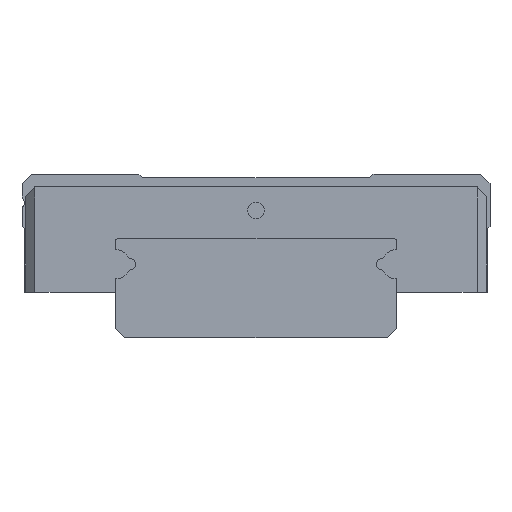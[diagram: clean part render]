
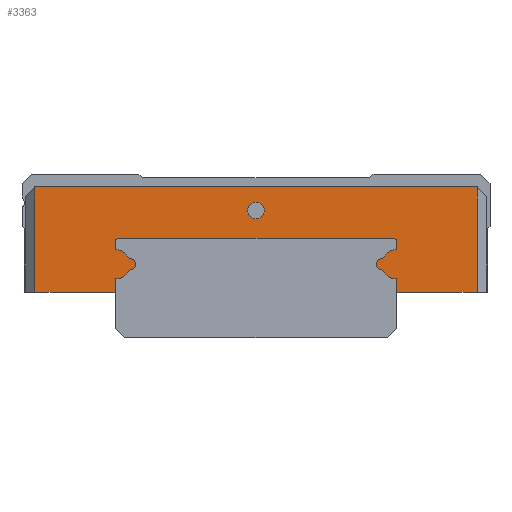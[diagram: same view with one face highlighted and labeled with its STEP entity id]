
A CAD part, left-side view. The second image highlights one B-rep face of the part: STEP entity #3363.
In plain terms, the highlighted planar face has unit normal (-1, 0, 0).
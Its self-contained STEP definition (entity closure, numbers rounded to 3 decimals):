
#1601=CARTESIAN_POINT('',(0.0,-18.9,3.9));
#1602=VERTEX_POINT('',#1601);
#1609=CARTESIAN_POINT('',(0.0,-12.,3.9));
#1610=VERTEX_POINT('',#1609);
#1611=CARTESIAN_POINT('',(0.0,-12.,3.9));
#1612=DIRECTION('',(0.0,-1.0,0.0));
#1613=VECTOR('',#1612,6.9);
#1614=LINE('',#1611,#1613);
#1615=EDGE_CURVE('',#1610,#1602,#1614,.T.);
#1827=CARTESIAN_POINT('',(0.0,0.7,10.9));
#1828=VERTEX_POINT('',#1827);
#1829=CARTESIAN_POINT('',(0.0,0.,10.9));
#1830=DIRECTION('',(1.0,0.0,0.0));
#1831=DIRECTION('',(0.0,-1.0,0.0));
#1832=AXIS2_PLACEMENT_3D('',#1829,#1830,#1831);
#1833=CIRCLE('',#1832,0.7);
#1834=EDGE_CURVE('',#1828,#1828,#1833,.T.);
#2731=CARTESIAN_POINT('',(0.0,18.9,12.9));
#2732=VERTEX_POINT('',#2731);
#2739=CARTESIAN_POINT('',(0.0,-18.9,12.9));
#2740=VERTEX_POINT('',#2739);
#2741=CARTESIAN_POINT('',(0.0,-18.9,12.9));
#2742=DIRECTION('',(0.0,1.0,0.0));
#2743=VECTOR('',#2742,37.8);
#2744=LINE('',#2741,#2743);
#2745=EDGE_CURVE('',#2740,#2732,#2744,.T.);
#2782=CARTESIAN_POINT('',(0.0,-18.9,3.9));
#2783=DIRECTION('',(0.0,0.0,1.0));
#2784=VECTOR('',#2783,9.);
#2785=LINE('',#2782,#2784);
#2786=EDGE_CURVE('',#1602,#2740,#2785,.T.);
#2815=CARTESIAN_POINT('',(0.0,18.9,3.9));
#2816=VERTEX_POINT('',#2815);
#2823=CARTESIAN_POINT('',(0.0,18.9,12.9));
#2824=DIRECTION('',(0.0,0.0,-1.0));
#2825=VECTOR('',#2824,9.);
#2826=LINE('',#2823,#2825);
#2827=EDGE_CURVE('',#2732,#2816,#2826,.T.);
#2872=CARTESIAN_POINT('',(0.0,12.,3.9));
#2873=VERTEX_POINT('',#2872);
#2880=CARTESIAN_POINT('',(0.0,18.9,3.9));
#2881=DIRECTION('',(0.0,-1.0,0.0));
#2882=VECTOR('',#2881,6.9);
#2883=LINE('',#2880,#2882);
#2884=EDGE_CURVE('',#2816,#2873,#2883,.T.);
#2909=CARTESIAN_POINT('',(0.0,12.,5.05));
#2910=VERTEX_POINT('',#2909);
#2917=CARTESIAN_POINT('',(0.0,12.,3.9));
#2918=DIRECTION('',(0.0,0.0,1.0));
#2919=VECTOR('',#2918,1.15);
#2920=LINE('',#2917,#2919);
#2921=EDGE_CURVE('',#2873,#2910,#2920,.T.);
#2941=CARTESIAN_POINT('',(0.0,10.853,5.803));
#2942=VERTEX_POINT('',#2941);
#2949=CARTESIAN_POINT('',(0.0,12.,6.3));
#2950=DIRECTION('',(-1.,0.0,0.0));
#2951=DIRECTION('',(0.0,0.918,0.398));
#2952=AXIS2_PLACEMENT_3D('',#2949,#2950,#2951);
#2953=CIRCLE('',#2952,1.25);
#2954=EDGE_CURVE('',#2910,#2942,#2953,.T.);
#2974=CARTESIAN_POINT('',(0.0,10.853,6.797));
#2975=VERTEX_POINT('',#2974);
#2982=CARTESIAN_POINT('',(0.0,10.8,6.3));
#2983=DIRECTION('',(-1.0,0.0,0.0));
#2984=DIRECTION('',(0.0,-0.106,-0.994));
#2985=AXIS2_PLACEMENT_3D('',#2982,#2983,#2984);
#2986=CIRCLE('',#2985,0.5);
#2987=EDGE_CURVE('',#2942,#2975,#2986,.T.);
#3007=CARTESIAN_POINT('',(0.0,12.,7.55));
#3008=VERTEX_POINT('',#3007);
#3015=CARTESIAN_POINT('',(0.0,12.,6.3));
#3016=DIRECTION('',(-1.0,0.0,0.0));
#3017=DIRECTION('',(0.0,0.0,-1.0));
#3018=AXIS2_PLACEMENT_3D('',#3015,#3016,#3017);
#3019=CIRCLE('',#3018,1.25);
#3020=EDGE_CURVE('',#2975,#3008,#3019,.T.);
#3039=CARTESIAN_POINT('',(0.0,12.,8.25));
#3040=VERTEX_POINT('',#3039);
#3047=CARTESIAN_POINT('',(0.0,12.,7.55));
#3048=DIRECTION('',(0.0,0.0,1.0));
#3049=VECTOR('',#3048,0.7);
#3050=LINE('',#3047,#3049);
#3051=EDGE_CURVE('',#3008,#3040,#3050,.T.);
#3071=CARTESIAN_POINT('',(0.0,11.75,8.5));
#3072=VERTEX_POINT('',#3071);
#3079=CARTESIAN_POINT('',(0.0,11.75,8.25));
#3080=DIRECTION('',(1.0,0.0,0.0));
#3081=DIRECTION('',(0.0,1.0,0.0));
#3082=AXIS2_PLACEMENT_3D('',#3079,#3080,#3081);
#3083=CIRCLE('',#3082,0.25);
#3084=EDGE_CURVE('',#3040,#3072,#3083,.T.);
#3103=CARTESIAN_POINT('',(0.0,-11.75,8.5));
#3104=VERTEX_POINT('',#3103);
#3111=CARTESIAN_POINT('',(0.0,11.75,8.5));
#3112=DIRECTION('',(0.0,-1.0,0.0));
#3113=VECTOR('',#3112,23.5);
#3114=LINE('',#3111,#3113);
#3115=EDGE_CURVE('',#3072,#3104,#3114,.T.);
#3135=CARTESIAN_POINT('',(0.0,-12.,8.25));
#3136=VERTEX_POINT('',#3135);
#3143=CARTESIAN_POINT('',(0.0,-11.75,8.25));
#3144=DIRECTION('',(1.0,0.0,0.0));
#3145=DIRECTION('',(0.0,0.0,1.0));
#3146=AXIS2_PLACEMENT_3D('',#3143,#3144,#3145);
#3147=CIRCLE('',#3146,0.25);
#3148=EDGE_CURVE('',#3104,#3136,#3147,.T.);
#3167=CARTESIAN_POINT('',(0.0,-12.,7.55));
#3168=VERTEX_POINT('',#3167);
#3175=CARTESIAN_POINT('',(0.0,-12.,8.25));
#3176=DIRECTION('',(0.0,0.0,-1.0));
#3177=VECTOR('',#3176,0.7);
#3178=LINE('',#3175,#3177);
#3179=EDGE_CURVE('',#3136,#3168,#3178,.T.);
#3199=CARTESIAN_POINT('',(0.0,-10.853,6.797));
#3200=VERTEX_POINT('',#3199);
#3207=CARTESIAN_POINT('',(0.0,-12.,6.3));
#3208=DIRECTION('',(-1.,0.0,0.0));
#3209=DIRECTION('',(0.0,-0.917,-0.398));
#3210=AXIS2_PLACEMENT_3D('',#3207,#3208,#3209);
#3211=CIRCLE('',#3210,1.25);
#3212=EDGE_CURVE('',#3168,#3200,#3211,.T.);
#3232=CARTESIAN_POINT('',(0.0,-10.853,5.803));
#3233=VERTEX_POINT('',#3232);
#3240=CARTESIAN_POINT('',(0.0,-10.8,6.3));
#3241=DIRECTION('',(-1.,0.0,0.0));
#3242=DIRECTION('',(0.0,0.106,0.994));
#3243=AXIS2_PLACEMENT_3D('',#3240,#3241,#3242);
#3244=CIRCLE('',#3243,0.5);
#3245=EDGE_CURVE('',#3200,#3233,#3244,.T.);
#3265=CARTESIAN_POINT('',(0.0,-12.,5.05));
#3266=VERTEX_POINT('',#3265);
#3273=CARTESIAN_POINT('',(0.0,-12.,6.3));
#3274=DIRECTION('',(-1.0,0.0,0.0));
#3275=DIRECTION('',(0.0,0.0,1.0));
#3276=AXIS2_PLACEMENT_3D('',#3273,#3274,#3275);
#3277=CIRCLE('',#3276,1.25);
#3278=EDGE_CURVE('',#3233,#3266,#3277,.T.);
#3296=CARTESIAN_POINT('',(0.0,-12.,5.05));
#3297=DIRECTION('',(0.0,0.0,-1.0));
#3298=VECTOR('',#3297,1.15);
#3299=LINE('',#3296,#3298);
#3300=EDGE_CURVE('',#3266,#1610,#3299,.T.);
#3335=CARTESIAN_POINT('',(0.0,0.,9.162));
#3336=DIRECTION('',(1.0,0.0,0.0));
#3337=DIRECTION('',(0.0,0.0,-1.0));
#3338=AXIS2_PLACEMENT_3D('',#3335,#3336,#3337);
#3339=PLANE('',#3338);
#3340=ORIENTED_EDGE('',*,*,#1615,.T.);
#3341=ORIENTED_EDGE('',*,*,#2786,.T.);
#3342=ORIENTED_EDGE('',*,*,#2745,.T.);
#3343=ORIENTED_EDGE('',*,*,#2827,.T.);
#3344=ORIENTED_EDGE('',*,*,#2884,.T.);
#3345=ORIENTED_EDGE('',*,*,#2921,.T.);
#3346=ORIENTED_EDGE('',*,*,#2954,.T.);
#3347=ORIENTED_EDGE('',*,*,#2987,.T.);
#3348=ORIENTED_EDGE('',*,*,#3020,.T.);
#3349=ORIENTED_EDGE('',*,*,#3051,.T.);
#3350=ORIENTED_EDGE('',*,*,#3084,.T.);
#3351=ORIENTED_EDGE('',*,*,#3115,.T.);
#3352=ORIENTED_EDGE('',*,*,#3148,.T.);
#3353=ORIENTED_EDGE('',*,*,#3179,.T.);
#3354=ORIENTED_EDGE('',*,*,#3212,.T.);
#3355=ORIENTED_EDGE('',*,*,#3245,.T.);
#3356=ORIENTED_EDGE('',*,*,#3278,.T.);
#3357=ORIENTED_EDGE('',*,*,#3300,.T.);
#3358=EDGE_LOOP('',(#3340,#3341,#3342,#3343,#3344,#3345,#3346,#3347,#3348,#3349,#3350,#3351,#3352,#3353,#3354,#3355,#3356,#3357));
#3359=FACE_OUTER_BOUND('',#3358,.T.);
#3360=ORIENTED_EDGE('',*,*,#1834,.T.);
#3361=EDGE_LOOP('',(#3360));
#3362=FACE_BOUND('',#3361,.T.);
#3363=ADVANCED_FACE('',(#3359,#3362),#3339,.F.);
